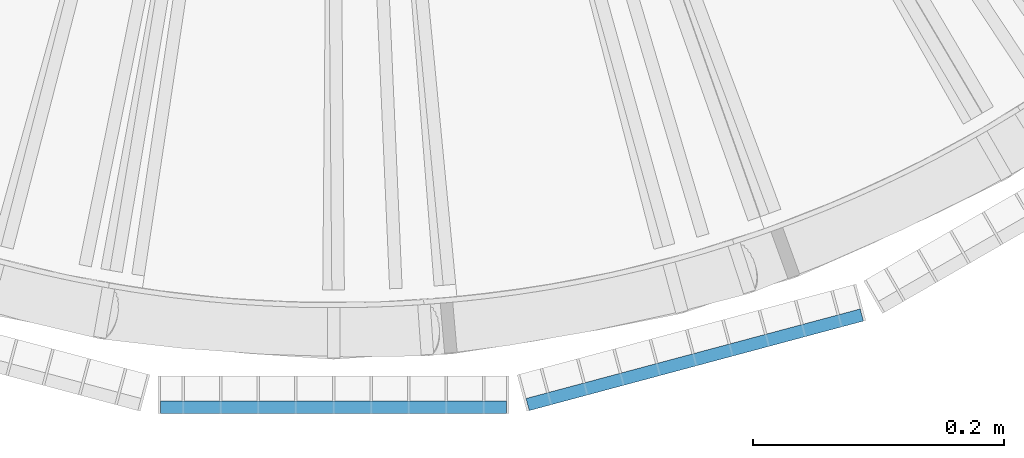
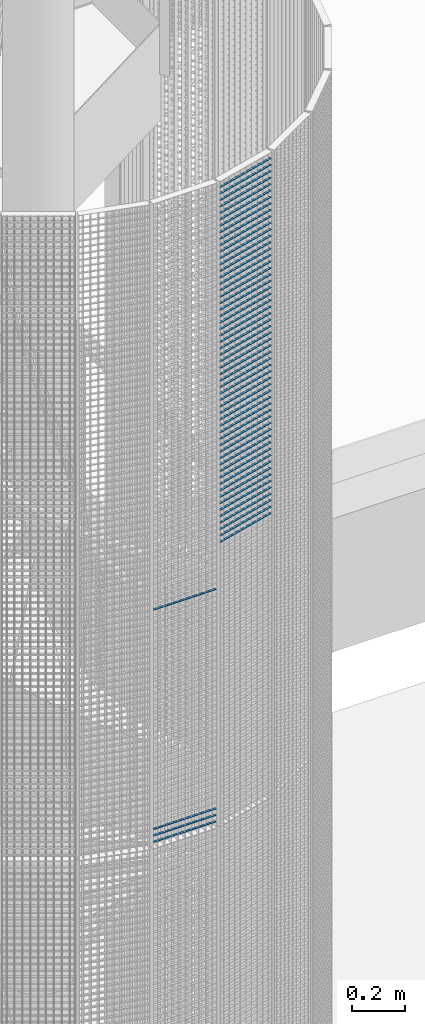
# One storey, part 392 of 1183: 60 beams, 2 elements without a shape of their own.
"""IFC2X3 building model written with IfcOpenShell, lengths in millimetres."""

from ifc_helpers import new_model, si_unit, frame, origin_with_axes, origin_2d_with_axis, place, context, subcontext, project, spatial, rectangle, extrude, material, type_object, element, aggregate, save


model = new_model("IFC2X3")

# Units and contexts
model_context = context("Model", 3, precision=1e-05, world=origin_with_axes())
body_context = subcontext(model_context, "Body", "Model", "MODEL_VIEW")
ifc_project = project(units=[si_unit("LENGTHUNIT", "METRE", prefix="MILLI"), si_unit("AREAUNIT", "SQUARE_METRE"), si_unit("VOLUMEUNIT", "CUBIC_METRE"), si_unit("MASSUNIT", "GRAM", prefix="KILO"), si_unit("TIMEUNIT", "SECOND"), si_unit("PLANEANGLEUNIT", "RADIAN"), si_unit("SOLIDANGLEUNIT", "STERADIAN"), si_unit("THERMODYNAMICTEMPERATUREUNIT", "DEGREE_CELSIUS"), si_unit("LUMINOUSINTENSITYUNIT", "LUMEN")], contexts=[model_context])

# Site, building, storey
site_placement = place(None, origin_with_axes())
site = spatial("IfcSite", under=ifc_project, at=site_placement, Name="Undefined", CompositionType="ELEMENT")
building_placement = place(site_placement, origin_with_axes())
building = spatial("IfcBuilding", under=site, at=building_placement, Name="Undefined", CompositionType="ELEMENT")
storey_placement = place(building_placement, origin_with_axes())
storey = spatial("IfcBuildingStorey", under=building, at=storey_placement, Name="Undefined", CompositionType="ELEMENT", Elevation=0.0)

# Assembly, beams
assembly_1_placement = place(storey_placement, origin_with_axes())
assembly_1 = element("IfcElementAssembly", 1, at=assembly_1_placement, inside=storey, Name="BORDURE", AssemblyPlace="NOTDEFINED", PredefinedType="NOTDEFINED")
ifc_material = material(Name="STEEL/S235JR")
beam_type = type_object("IfcBeamType", Name="PL2*10", PredefinedType="NOTDEFINED")
beam_1_placement = place(assembly_1_placement, frame((21737.9960033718, -1113.47999999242, 15090.0), z_axis=(0.0, -1.0, 0.0), x_axis=(-1.0, 0.0, 0.0)))
beam_1 = element("IfcBeam", 2, at=beam_1_placement, type_object=beam_type, material=ifc_material, Name="ENTRETOISE", context=body_context, shape_type="SweptSolid", body=[
    extrude(rectangle(XDim=2.0, YDim=10.0, at=origin_2d_with_axis()), frame((275.999999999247, 9.09494701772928e-13, 1.53210777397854e-14), z_axis=(-1.0, 0.0, 0.0), x_axis=(0.0, -1.0, 0.0)), (0.0, 0.0, 1.0), 276.0),
])
beam_2_placement = place(assembly_1_placement, frame((21737.9960033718, -1113.47999999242, 15060.0), z_axis=(0.0, -1.0, 0.0), x_axis=(-1.0, 0.0, 0.0)))
beam_2 = element("IfcBeam", 3, at=beam_2_placement, type_object=beam_type, material=ifc_material, Name="ENTRETOISE", context=body_context, shape_type="SweptSolid", body=[
    extrude(rectangle(XDim=2.0, YDim=10.0, at=origin_2d_with_axis()), frame((275.999999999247, 9.09494701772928e-13, 1.53210777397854e-14), z_axis=(-1.0, 0.0, 0.0), x_axis=(0.0, -1.0, 0.0)), (0.0, 0.0, 1.0), 276.0),
])
beam_3_placement = place(assembly_1_placement, frame((21737.9960033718, -1113.47999999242, 16110.0), z_axis=(0.0, -1.0, 0.0), x_axis=(-1.0, 0.0, 0.0)))
beam_3 = element("IfcBeam", 4, at=beam_3_placement, type_object=beam_type, material=ifc_material, Name="ENTRETOISE", context=body_context, shape_type="SweptSolid", body=[
    extrude(rectangle(XDim=2.0, YDim=10.0, at=origin_2d_with_axis()), frame((275.999999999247, 9.09494701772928e-13, 1.53210777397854e-14), z_axis=(-1.0, 0.0, 0.0), x_axis=(0.0, -1.0, 0.0)), (0.0, 0.0, 1.0), 276.0),
])
beam_4_placement = place(assembly_1_placement, frame((21737.9960033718, -1113.47999999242, 15030.0), z_axis=(0.0, -1.0, 0.0), x_axis=(-1.0, 0.0, 0.0)))
beam_4 = element("IfcBeam", 5, at=beam_4_placement, type_object=beam_type, material=ifc_material, Name="ENTRETOISE", context=body_context, shape_type="SweptSolid", body=[
    extrude(rectangle(XDim=2.0, YDim=10.0, at=origin_2d_with_axis()), frame((275.999999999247, 9.09494701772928e-13, 1.53210777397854e-14), z_axis=(-1.0, 0.0, 0.0), x_axis=(0.0, -1.0, 0.0)), (0.0, 0.0, 1.0), 276.0),
])
aggregate(assembly_1, [beam_1, beam_2, beam_3, beam_4])

assembly_2_placement = place(storey_placement, origin_with_axes())
assembly_2 = element("IfcElementAssembly", 6, at=assembly_2_placement, inside=storey, Name="BORDURE", AssemblyPlace="NOTDEFINED", PredefinedType="NOTDEFINED")
beam_5_placement = place(assembly_2_placement, frame((22021.4837339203, -1039.82309522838, 17970.0), z_axis=(0.258819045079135, -0.965925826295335, 0.0), x_axis=(-0.965925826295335, -0.258819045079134, 0.0)))
beam_5 = element("IfcBeam", 7, at=beam_5_placement, type_object=beam_type, material=ifc_material, Name="ENTRETOISE", context=body_context, shape_type="SweptSolid", body=[
    extrude(rectangle(XDim=2.0, YDim=10.0, at=origin_2d_with_axis()), frame((275.999999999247, 9.09494701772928e-13, 1.53210777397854e-14), z_axis=(-1.0, 0.0, 0.0), x_axis=(0.0, -1.0, 0.0)), (0.0, 0.0, 1.0), 276.0),
])
beam_6_placement = place(assembly_2_placement, frame((22021.4837339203, -1039.82309522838, 17940.0), z_axis=(0.258819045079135, -0.965925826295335, 0.0), x_axis=(-0.965925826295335, -0.258819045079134, 0.0)))
beam_6 = element("IfcBeam", 8, at=beam_6_placement, type_object=beam_type, material=ifc_material, Name="ENTRETOISE", context=body_context, shape_type="SweptSolid", body=[
    extrude(rectangle(XDim=2.0, YDim=10.0, at=origin_2d_with_axis()), frame((275.999999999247, 9.09494701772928e-13, 1.53210777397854e-14), z_axis=(-1.0, 0.0, 0.0), x_axis=(0.0, -1.0, 0.0)), (0.0, 0.0, 1.0), 276.0),
])
beam_7_placement = place(assembly_2_placement, frame((22021.4837339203, -1039.82309522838, 17910.0), z_axis=(0.258819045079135, -0.965925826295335, 0.0), x_axis=(-0.965925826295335, -0.258819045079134, 0.0)))
beam_7 = element("IfcBeam", 9, at=beam_7_placement, type_object=beam_type, material=ifc_material, Name="ENTRETOISE", context=body_context, shape_type="SweptSolid", body=[
    extrude(rectangle(XDim=2.0, YDim=10.0, at=origin_2d_with_axis()), frame((275.999999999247, 9.09494701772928e-13, 1.53210777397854e-14), z_axis=(-1.0, 0.0, 0.0), x_axis=(0.0, -1.0, 0.0)), (0.0, 0.0, 1.0), 276.0),
])
beam_8_placement = place(assembly_2_placement, frame((22021.4837339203, -1039.82309522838, 17880.0), z_axis=(0.258819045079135, -0.965925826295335, 0.0), x_axis=(-0.965925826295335, -0.258819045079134, 0.0)))
beam_8 = element("IfcBeam", 10, at=beam_8_placement, type_object=beam_type, material=ifc_material, Name="ENTRETOISE", context=body_context, shape_type="SweptSolid", body=[
    extrude(rectangle(XDim=2.0, YDim=10.0, at=origin_2d_with_axis()), frame((275.999999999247, 9.09494701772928e-13, 1.53210777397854e-14), z_axis=(-1.0, 0.0, 0.0), x_axis=(0.0, -1.0, 0.0)), (0.0, 0.0, 1.0), 276.0),
])
beam_9_placement = place(assembly_2_placement, frame((22021.4837339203, -1039.82309522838, 17850.0), z_axis=(0.258819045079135, -0.965925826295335, 0.0), x_axis=(-0.965925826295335, -0.258819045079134, 0.0)))
beam_9 = element("IfcBeam", 11, at=beam_9_placement, type_object=beam_type, material=ifc_material, Name="ENTRETOISE", context=body_context, shape_type="SweptSolid", body=[
    extrude(rectangle(XDim=2.0, YDim=10.0, at=origin_2d_with_axis()), frame((275.999999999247, 9.09494701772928e-13, 1.53210777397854e-14), z_axis=(-1.0, 0.0, 0.0), x_axis=(0.0, -1.0, 0.0)), (0.0, 0.0, 1.0), 276.0),
])
beam_10_placement = place(assembly_2_placement, frame((22021.4837339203, -1039.82309522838, 17820.0), z_axis=(0.258819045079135, -0.965925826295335, 0.0), x_axis=(-0.965925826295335, -0.258819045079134, 0.0)))
beam_10 = element("IfcBeam", 12, at=beam_10_placement, type_object=beam_type, material=ifc_material, Name="ENTRETOISE", context=body_context, shape_type="SweptSolid", body=[
    extrude(rectangle(XDim=2.0, YDim=10.0, at=origin_2d_with_axis()), frame((275.999999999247, 9.09494701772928e-13, 1.53210777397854e-14), z_axis=(-1.0, 0.0, 0.0), x_axis=(0.0, -1.0, 0.0)), (0.0, 0.0, 1.0), 276.0),
])
beam_11_placement = place(assembly_2_placement, frame((22021.4837339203, -1039.82309522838, 17790.0), z_axis=(0.258819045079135, -0.965925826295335, 0.0), x_axis=(-0.965925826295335, -0.258819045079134, 0.0)))
beam_11 = element("IfcBeam", 13, at=beam_11_placement, type_object=beam_type, material=ifc_material, Name="ENTRETOISE", context=body_context, shape_type="SweptSolid", body=[
    extrude(rectangle(XDim=2.0, YDim=10.0, at=origin_2d_with_axis()), frame((275.999999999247, 9.09494701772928e-13, 1.53210777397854e-14), z_axis=(-1.0, 0.0, 0.0), x_axis=(0.0, -1.0, 0.0)), (0.0, 0.0, 1.0), 276.0),
])
beam_12_placement = place(assembly_2_placement, frame((22021.4837339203, -1039.82309522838, 17760.0), z_axis=(0.258819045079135, -0.965925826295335, 0.0), x_axis=(-0.965925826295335, -0.258819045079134, 0.0)))
beam_12 = element("IfcBeam", 14, at=beam_12_placement, type_object=beam_type, material=ifc_material, Name="ENTRETOISE", context=body_context, shape_type="SweptSolid", body=[
    extrude(rectangle(XDim=2.0, YDim=10.0, at=origin_2d_with_axis()), frame((275.999999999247, 9.09494701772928e-13, 1.53210777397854e-14), z_axis=(-1.0, 0.0, 0.0), x_axis=(0.0, -1.0, 0.0)), (0.0, 0.0, 1.0), 276.0),
])
beam_13_placement = place(assembly_2_placement, frame((22021.4837339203, -1039.82309522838, 17730.0), z_axis=(0.258819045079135, -0.965925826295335, 0.0), x_axis=(-0.965925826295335, -0.258819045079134, 0.0)))
beam_13 = element("IfcBeam", 15, at=beam_13_placement, type_object=beam_type, material=ifc_material, Name="ENTRETOISE", context=body_context, shape_type="SweptSolid", body=[
    extrude(rectangle(XDim=2.0, YDim=10.0, at=origin_2d_with_axis()), frame((275.999999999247, 9.09494701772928e-13, 1.53210777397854e-14), z_axis=(-1.0, 0.0, 0.0), x_axis=(0.0, -1.0, 0.0)), (0.0, 0.0, 1.0), 276.0),
])
beam_14_placement = place(assembly_2_placement, frame((22021.4837339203, -1039.82309522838, 17700.0), z_axis=(0.258819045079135, -0.965925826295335, 0.0), x_axis=(-0.965925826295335, -0.258819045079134, 0.0)))
beam_14 = element("IfcBeam", 16, at=beam_14_placement, type_object=beam_type, material=ifc_material, Name="ENTRETOISE", context=body_context, shape_type="SweptSolid", body=[
    extrude(rectangle(XDim=2.0, YDim=10.0, at=origin_2d_with_axis()), frame((275.999999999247, 9.09494701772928e-13, 1.53210777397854e-14), z_axis=(-1.0, 0.0, 0.0), x_axis=(0.0, -1.0, 0.0)), (0.0, 0.0, 1.0), 276.0),
])
beam_15_placement = place(assembly_2_placement, frame((22021.4837339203, -1039.82309522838, 17670.0), z_axis=(0.258819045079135, -0.965925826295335, 0.0), x_axis=(-0.965925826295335, -0.258819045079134, 0.0)))
beam_15 = element("IfcBeam", 17, at=beam_15_placement, type_object=beam_type, material=ifc_material, Name="ENTRETOISE", context=body_context, shape_type="SweptSolid", body=[
    extrude(rectangle(XDim=2.0, YDim=10.0, at=origin_2d_with_axis()), frame((275.999999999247, 9.09494701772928e-13, 1.53210777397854e-14), z_axis=(-1.0, 0.0, 0.0), x_axis=(0.0, -1.0, 0.0)), (0.0, 0.0, 1.0), 276.0),
])
beam_16_placement = place(assembly_2_placement, frame((22021.4837339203, -1039.82309522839, 17640.0), z_axis=(0.258819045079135, -0.965925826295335, 0.0), x_axis=(-0.965925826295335, -0.258819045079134, 0.0)))
beam_16 = element("IfcBeam", 18, at=beam_16_placement, type_object=beam_type, material=ifc_material, Name="ENTRETOISE", context=body_context, shape_type="SweptSolid", body=[
    extrude(rectangle(XDim=2.0, YDim=10.0, at=origin_2d_with_axis()), frame((275.999999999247, 9.09494701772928e-13, 1.53210777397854e-14), z_axis=(-1.0, 0.0, 0.0), x_axis=(0.0, -1.0, 0.0)), (0.0, 0.0, 1.0), 276.0),
])
beam_17_placement = place(assembly_2_placement, frame((22021.4837339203, -1039.82309522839, 17610.0), z_axis=(0.258819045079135, -0.965925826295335, 0.0), x_axis=(-0.965925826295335, -0.258819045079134, 0.0)))
beam_17 = element("IfcBeam", 19, at=beam_17_placement, type_object=beam_type, material=ifc_material, Name="ENTRETOISE", context=body_context, shape_type="SweptSolid", body=[
    extrude(rectangle(XDim=2.0, YDim=10.0, at=origin_2d_with_axis()), frame((275.999999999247, 9.09494701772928e-13, 1.53210777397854e-14), z_axis=(-1.0, 0.0, 0.0), x_axis=(0.0, -1.0, 0.0)), (0.0, 0.0, 1.0), 276.0),
])
beam_18_placement = place(assembly_2_placement, frame((22021.4837339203, -1039.82309522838, 17580.0), z_axis=(0.258819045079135, -0.965925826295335, 0.0), x_axis=(-0.965925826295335, -0.258819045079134, 0.0)))
beam_18 = element("IfcBeam", 20, at=beam_18_placement, type_object=beam_type, material=ifc_material, Name="ENTRETOISE", context=body_context, shape_type="SweptSolid", body=[
    extrude(rectangle(XDim=2.0, YDim=10.0, at=origin_2d_with_axis()), frame((275.999999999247, 9.09494701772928e-13, 1.53210777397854e-14), z_axis=(-1.0, 0.0, 0.0), x_axis=(0.0, -1.0, 0.0)), (0.0, 0.0, 1.0), 276.0),
])
beam_19_placement = place(assembly_2_placement, frame((22021.4837339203, -1039.82309522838, 17550.0), z_axis=(0.258819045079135, -0.965925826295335, 0.0), x_axis=(-0.965925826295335, -0.258819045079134, 0.0)))
beam_19 = element("IfcBeam", 21, at=beam_19_placement, type_object=beam_type, material=ifc_material, Name="ENTRETOISE", context=body_context, shape_type="SweptSolid", body=[
    extrude(rectangle(XDim=2.0, YDim=10.0, at=origin_2d_with_axis()), frame((275.999999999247, 9.09494701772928e-13, 1.53210777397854e-14), z_axis=(-1.0, 0.0, 0.0), x_axis=(0.0, -1.0, 0.0)), (0.0, 0.0, 1.0), 276.0),
])
beam_20_placement = place(assembly_2_placement, frame((22021.4837339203, -1039.82309522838, 17520.0), z_axis=(0.258819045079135, -0.965925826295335, 0.0), x_axis=(-0.965925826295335, -0.258819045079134, 0.0)))
beam_20 = element("IfcBeam", 22, at=beam_20_placement, type_object=beam_type, material=ifc_material, Name="ENTRETOISE", context=body_context, shape_type="SweptSolid", body=[
    extrude(rectangle(XDim=2.0, YDim=10.0, at=origin_2d_with_axis()), frame((275.999999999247, 9.09494701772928e-13, 1.53210777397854e-14), z_axis=(-1.0, 0.0, 0.0), x_axis=(0.0, -1.0, 0.0)), (0.0, 0.0, 1.0), 276.0),
])
beam_21_placement = place(assembly_2_placement, frame((22021.4837339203, -1039.82309522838, 17490.0), z_axis=(0.258819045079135, -0.965925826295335, 0.0), x_axis=(-0.965925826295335, -0.258819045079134, 0.0)))
beam_21 = element("IfcBeam", 23, at=beam_21_placement, type_object=beam_type, material=ifc_material, Name="ENTRETOISE", context=body_context, shape_type="SweptSolid", body=[
    extrude(rectangle(XDim=2.0, YDim=10.0, at=origin_2d_with_axis()), frame((275.999999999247, 9.09494701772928e-13, 1.53210777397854e-14), z_axis=(-1.0, 0.0, 0.0), x_axis=(0.0, -1.0, 0.0)), (0.0, 0.0, 1.0), 276.0),
])
beam_22_placement = place(assembly_2_placement, frame((22021.4837339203, -1039.82309522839, 17460.0), z_axis=(0.258819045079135, -0.965925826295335, 0.0), x_axis=(-0.965925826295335, -0.258819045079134, 0.0)))
beam_22 = element("IfcBeam", 24, at=beam_22_placement, type_object=beam_type, material=ifc_material, Name="ENTRETOISE", context=body_context, shape_type="SweptSolid", body=[
    extrude(rectangle(XDim=2.0, YDim=10.0, at=origin_2d_with_axis()), frame((275.999999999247, 9.09494701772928e-13, 1.53210777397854e-14), z_axis=(-1.0, 0.0, 0.0), x_axis=(0.0, -1.0, 0.0)), (0.0, 0.0, 1.0), 276.0),
])
beam_23_placement = place(assembly_2_placement, frame((22021.4837339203, -1039.82309522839, 17430.0), z_axis=(0.258819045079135, -0.965925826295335, 0.0), x_axis=(-0.965925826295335, -0.258819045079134, 0.0)))
beam_23 = element("IfcBeam", 25, at=beam_23_placement, type_object=beam_type, material=ifc_material, Name="ENTRETOISE", context=body_context, shape_type="SweptSolid", body=[
    extrude(rectangle(XDim=2.0, YDim=10.0, at=origin_2d_with_axis()), frame((275.999999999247, 9.09494701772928e-13, 1.53210777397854e-14), z_axis=(-1.0, 0.0, 0.0), x_axis=(0.0, -1.0, 0.0)), (0.0, 0.0, 1.0), 276.0),
])
beam_24_placement = place(assembly_2_placement, frame((22021.4837339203, -1039.82309522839, 17400.0), z_axis=(0.258819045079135, -0.965925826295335, 0.0), x_axis=(-0.965925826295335, -0.258819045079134, 0.0)))
beam_24 = element("IfcBeam", 26, at=beam_24_placement, type_object=beam_type, material=ifc_material, Name="ENTRETOISE", context=body_context, shape_type="SweptSolid", body=[
    extrude(rectangle(XDim=2.0, YDim=10.0, at=origin_2d_with_axis()), frame((275.999999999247, 9.09494701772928e-13, 1.53210777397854e-14), z_axis=(-1.0, 0.0, 0.0), x_axis=(0.0, -1.0, 0.0)), (0.0, 0.0, 1.0), 276.0),
])
beam_25_placement = place(assembly_2_placement, frame((22021.4837339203, -1039.82309522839, 17370.0), z_axis=(0.258819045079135, -0.965925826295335, 0.0), x_axis=(-0.965925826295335, -0.258819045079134, 0.0)))
beam_25 = element("IfcBeam", 27, at=beam_25_placement, type_object=beam_type, material=ifc_material, Name="ENTRETOISE", context=body_context, shape_type="SweptSolid", body=[
    extrude(rectangle(XDim=2.0, YDim=10.0, at=origin_2d_with_axis()), frame((275.999999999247, 9.09494701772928e-13, 1.53210777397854e-14), z_axis=(-1.0, 0.0, 0.0), x_axis=(0.0, -1.0, 0.0)), (0.0, 0.0, 1.0), 276.0),
])
beam_26_placement = place(assembly_2_placement, frame((22021.4837339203, -1039.82309522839, 17340.0), z_axis=(0.258819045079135, -0.965925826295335, 0.0), x_axis=(-0.965925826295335, -0.258819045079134, 0.0)))
beam_26 = element("IfcBeam", 28, at=beam_26_placement, type_object=beam_type, material=ifc_material, Name="ENTRETOISE", context=body_context, shape_type="SweptSolid", body=[
    extrude(rectangle(XDim=2.0, YDim=10.0, at=origin_2d_with_axis()), frame((275.999999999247, 9.09494701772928e-13, 1.53210777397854e-14), z_axis=(-1.0, 0.0, 0.0), x_axis=(0.0, -1.0, 0.0)), (0.0, 0.0, 1.0), 276.0),
])
beam_27_placement = place(assembly_2_placement, frame((22021.4837339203, -1039.82309522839, 17310.0), z_axis=(0.258819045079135, -0.965925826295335, 0.0), x_axis=(-0.965925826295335, -0.258819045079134, 0.0)))
beam_27 = element("IfcBeam", 29, at=beam_27_placement, type_object=beam_type, material=ifc_material, Name="ENTRETOISE", context=body_context, shape_type="SweptSolid", body=[
    extrude(rectangle(XDim=2.0, YDim=10.0, at=origin_2d_with_axis()), frame((275.999999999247, 9.09494701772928e-13, 1.53210777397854e-14), z_axis=(-1.0, 0.0, 0.0), x_axis=(0.0, -1.0, 0.0)), (0.0, 0.0, 1.0), 276.0),
])
beam_28_placement = place(assembly_2_placement, frame((22021.4837339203, -1039.82309522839, 17280.0), z_axis=(0.258819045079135, -0.965925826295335, 0.0), x_axis=(-0.965925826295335, -0.258819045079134, 0.0)))
beam_28 = element("IfcBeam", 30, at=beam_28_placement, type_object=beam_type, material=ifc_material, Name="ENTRETOISE", context=body_context, shape_type="SweptSolid", body=[
    extrude(rectangle(XDim=2.0, YDim=10.0, at=origin_2d_with_axis()), frame((275.999999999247, 9.09494701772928e-13, 1.53210777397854e-14), z_axis=(-1.0, 0.0, 0.0), x_axis=(0.0, -1.0, 0.0)), (0.0, 0.0, 1.0), 276.0),
])
beam_29_placement = place(assembly_2_placement, frame((22021.4837339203, -1039.82309522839, 17250.0), z_axis=(0.258819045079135, -0.965925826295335, 0.0), x_axis=(-0.965925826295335, -0.258819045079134, 0.0)))
beam_29 = element("IfcBeam", 31, at=beam_29_placement, type_object=beam_type, material=ifc_material, Name="ENTRETOISE", context=body_context, shape_type="SweptSolid", body=[
    extrude(rectangle(XDim=2.0, YDim=10.0, at=origin_2d_with_axis()), frame((275.999999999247, 9.09494701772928e-13, 1.53210777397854e-14), z_axis=(-1.0, 0.0, 0.0), x_axis=(0.0, -1.0, 0.0)), (0.0, 0.0, 1.0), 276.0),
])
beam_30_placement = place(assembly_2_placement, frame((22021.4837339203, -1039.82309522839, 17220.0), z_axis=(0.258819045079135, -0.965925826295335, 0.0), x_axis=(-0.965925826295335, -0.258819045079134, 0.0)))
beam_30 = element("IfcBeam", 32, at=beam_30_placement, type_object=beam_type, material=ifc_material, Name="ENTRETOISE", context=body_context, shape_type="SweptSolid", body=[
    extrude(rectangle(XDim=2.0, YDim=10.0, at=origin_2d_with_axis()), frame((275.999999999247, 9.09494701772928e-13, 1.53210777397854e-14), z_axis=(-1.0, 0.0, 0.0), x_axis=(0.0, -1.0, 0.0)), (0.0, 0.0, 1.0), 276.0),
])
beam_31_placement = place(assembly_2_placement, frame((22021.4837339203, -1039.82309522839, 17190.0), z_axis=(0.258819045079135, -0.965925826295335, 0.0), x_axis=(-0.965925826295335, -0.258819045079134, 0.0)))
beam_31 = element("IfcBeam", 33, at=beam_31_placement, type_object=beam_type, material=ifc_material, Name="ENTRETOISE", context=body_context, shape_type="SweptSolid", body=[
    extrude(rectangle(XDim=2.0, YDim=10.0, at=origin_2d_with_axis()), frame((275.999999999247, 9.09494701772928e-13, 1.53210777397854e-14), z_axis=(-1.0, 0.0, 0.0), x_axis=(0.0, -1.0, 0.0)), (0.0, 0.0, 1.0), 276.0),
])
beam_32_placement = place(assembly_2_placement, frame((22021.4837339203, -1039.82309522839, 17160.0), z_axis=(0.258819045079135, -0.965925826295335, 0.0), x_axis=(-0.965925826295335, -0.258819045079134, 0.0)))
beam_32 = element("IfcBeam", 34, at=beam_32_placement, type_object=beam_type, material=ifc_material, Name="ENTRETOISE", context=body_context, shape_type="SweptSolid", body=[
    extrude(rectangle(XDim=2.0, YDim=10.0, at=origin_2d_with_axis()), frame((275.999999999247, 9.09494701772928e-13, 1.53210777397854e-14), z_axis=(-1.0, 0.0, 0.0), x_axis=(0.0, -1.0, 0.0)), (0.0, 0.0, 1.0), 276.0),
])
beam_33_placement = place(assembly_2_placement, frame((22021.4837339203, -1039.82309522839, 17130.0), z_axis=(0.258819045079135, -0.965925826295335, 0.0), x_axis=(-0.965925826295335, -0.258819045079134, 0.0)))
beam_33 = element("IfcBeam", 35, at=beam_33_placement, type_object=beam_type, material=ifc_material, Name="ENTRETOISE", context=body_context, shape_type="SweptSolid", body=[
    extrude(rectangle(XDim=2.0, YDim=10.0, at=origin_2d_with_axis()), frame((275.999999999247, 9.09494701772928e-13, 1.53210777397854e-14), z_axis=(-1.0, 0.0, 0.0), x_axis=(0.0, -1.0, 0.0)), (0.0, 0.0, 1.0), 276.0),
])
beam_34_placement = place(assembly_2_placement, frame((22021.4837339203, -1039.82309522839, 17100.0), z_axis=(0.258819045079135, -0.965925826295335, 0.0), x_axis=(-0.965925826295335, -0.258819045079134, 0.0)))
beam_34 = element("IfcBeam", 36, at=beam_34_placement, type_object=beam_type, material=ifc_material, Name="ENTRETOISE", context=body_context, shape_type="SweptSolid", body=[
    extrude(rectangle(XDim=2.0, YDim=10.0, at=origin_2d_with_axis()), frame((275.999999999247, 9.09494701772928e-13, 1.53210777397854e-14), z_axis=(-1.0, 0.0, 0.0), x_axis=(0.0, -1.0, 0.0)), (0.0, 0.0, 1.0), 276.0),
])
beam_35_placement = place(assembly_2_placement, frame((22021.4837339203, -1039.82309522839, 17070.0), z_axis=(0.258819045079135, -0.965925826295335, 0.0), x_axis=(-0.965925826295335, -0.258819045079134, 0.0)))
beam_35 = element("IfcBeam", 37, at=beam_35_placement, type_object=beam_type, material=ifc_material, Name="ENTRETOISE", context=body_context, shape_type="SweptSolid", body=[
    extrude(rectangle(XDim=2.0, YDim=10.0, at=origin_2d_with_axis()), frame((275.999999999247, 9.09494701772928e-13, 1.53210777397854e-14), z_axis=(-1.0, 0.0, 0.0), x_axis=(0.0, -1.0, 0.0)), (0.0, 0.0, 1.0), 276.0),
])
beam_36_placement = place(assembly_2_placement, frame((22021.4837339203, -1039.82309522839, 17040.0), z_axis=(0.258819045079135, -0.965925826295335, 0.0), x_axis=(-0.965925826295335, -0.258819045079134, 0.0)))
beam_36 = element("IfcBeam", 38, at=beam_36_placement, type_object=beam_type, material=ifc_material, Name="ENTRETOISE", context=body_context, shape_type="SweptSolid", body=[
    extrude(rectangle(XDim=2.0, YDim=10.0, at=origin_2d_with_axis()), frame((275.999999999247, 9.09494701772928e-13, 1.53210777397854e-14), z_axis=(-1.0, 0.0, 0.0), x_axis=(0.0, -1.0, 0.0)), (0.0, 0.0, 1.0), 276.0),
])
beam_37_placement = place(assembly_2_placement, frame((22021.4837339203, -1039.82309522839, 17010.0), z_axis=(0.258819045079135, -0.965925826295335, 0.0), x_axis=(-0.965925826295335, -0.258819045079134, 0.0)))
beam_37 = element("IfcBeam", 39, at=beam_37_placement, type_object=beam_type, material=ifc_material, Name="ENTRETOISE", context=body_context, shape_type="SweptSolid", body=[
    extrude(rectangle(XDim=2.0, YDim=10.0, at=origin_2d_with_axis()), frame((275.999999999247, 9.09494701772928e-13, 1.53210777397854e-14), z_axis=(-1.0, 0.0, 0.0), x_axis=(0.0, -1.0, 0.0)), (0.0, 0.0, 1.0), 276.0),
])
beam_38_placement = place(assembly_2_placement, frame((22021.4837339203, -1039.82309522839, 16980.0), z_axis=(0.258819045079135, -0.965925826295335, 0.0), x_axis=(-0.965925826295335, -0.258819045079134, 0.0)))
beam_38 = element("IfcBeam", 40, at=beam_38_placement, type_object=beam_type, material=ifc_material, Name="ENTRETOISE", context=body_context, shape_type="SweptSolid", body=[
    extrude(rectangle(XDim=2.0, YDim=10.0, at=origin_2d_with_axis()), frame((275.999999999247, 9.09494701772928e-13, 1.53210777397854e-14), z_axis=(-1.0, 0.0, 0.0), x_axis=(0.0, -1.0, 0.0)), (0.0, 0.0, 1.0), 276.0),
])
beam_39_placement = place(assembly_2_placement, frame((22021.4837339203, -1039.82309522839, 16950.0), z_axis=(0.258819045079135, -0.965925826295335, 0.0), x_axis=(-0.965925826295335, -0.258819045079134, 0.0)))
beam_39 = element("IfcBeam", 41, at=beam_39_placement, type_object=beam_type, material=ifc_material, Name="ENTRETOISE", context=body_context, shape_type="SweptSolid", body=[
    extrude(rectangle(XDim=2.0, YDim=10.0, at=origin_2d_with_axis()), frame((275.999999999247, 9.09494701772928e-13, 1.53210777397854e-14), z_axis=(-1.0, 0.0, 0.0), x_axis=(0.0, -1.0, 0.0)), (0.0, 0.0, 1.0), 276.0),
])
beam_40_placement = place(assembly_2_placement, frame((22021.4837339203, -1039.82309522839, 16920.0), z_axis=(0.258819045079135, -0.965925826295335, 0.0), x_axis=(-0.965925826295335, -0.258819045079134, 0.0)))
beam_40 = element("IfcBeam", 42, at=beam_40_placement, type_object=beam_type, material=ifc_material, Name="ENTRETOISE", context=body_context, shape_type="SweptSolid", body=[
    extrude(rectangle(XDim=2.0, YDim=10.0, at=origin_2d_with_axis()), frame((275.999999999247, 9.09494701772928e-13, 1.53210777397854e-14), z_axis=(-1.0, 0.0, 0.0), x_axis=(0.0, -1.0, 0.0)), (0.0, 0.0, 1.0), 276.0),
])
beam_41_placement = place(assembly_2_placement, frame((22021.4837339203, -1039.82309522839, 16890.0), z_axis=(0.258819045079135, -0.965925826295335, 0.0), x_axis=(-0.965925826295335, -0.258819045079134, 0.0)))
beam_41 = element("IfcBeam", 43, at=beam_41_placement, type_object=beam_type, material=ifc_material, Name="ENTRETOISE", context=body_context, shape_type="SweptSolid", body=[
    extrude(rectangle(XDim=2.0, YDim=10.0, at=origin_2d_with_axis()), frame((275.999999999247, 9.09494701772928e-13, 1.53210777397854e-14), z_axis=(-1.0, 0.0, 0.0), x_axis=(0.0, -1.0, 0.0)), (0.0, 0.0, 1.0), 276.0),
])
beam_42_placement = place(assembly_2_placement, frame((22021.4837339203, -1039.82309522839, 16860.0), z_axis=(0.258819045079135, -0.965925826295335, 0.0), x_axis=(-0.965925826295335, -0.258819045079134, 0.0)))
beam_42 = element("IfcBeam", 44, at=beam_42_placement, type_object=beam_type, material=ifc_material, Name="ENTRETOISE", context=body_context, shape_type="SweptSolid", body=[
    extrude(rectangle(XDim=2.0, YDim=10.0, at=origin_2d_with_axis()), frame((275.999999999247, 9.09494701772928e-13, 1.53210777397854e-14), z_axis=(-1.0, 0.0, 0.0), x_axis=(0.0, -1.0, 0.0)), (0.0, 0.0, 1.0), 276.0),
])
beam_43_placement = place(assembly_2_placement, frame((22021.4837339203, -1039.82309522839, 16830.0), z_axis=(0.258819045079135, -0.965925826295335, 0.0), x_axis=(-0.965925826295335, -0.258819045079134, 0.0)))
beam_43 = element("IfcBeam", 45, at=beam_43_placement, type_object=beam_type, material=ifc_material, Name="ENTRETOISE", context=body_context, shape_type="SweptSolid", body=[
    extrude(rectangle(XDim=2.0, YDim=10.0, at=origin_2d_with_axis()), frame((275.999999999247, 9.09494701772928e-13, 1.53210777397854e-14), z_axis=(-1.0, 0.0, 0.0), x_axis=(0.0, -1.0, 0.0)), (0.0, 0.0, 1.0), 276.0),
])
beam_44_placement = place(assembly_2_placement, frame((22021.4837339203, -1039.82309522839, 16800.0), z_axis=(0.258819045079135, -0.965925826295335, 0.0), x_axis=(-0.965925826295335, -0.258819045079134, 0.0)))
beam_44 = element("IfcBeam", 46, at=beam_44_placement, type_object=beam_type, material=ifc_material, Name="ENTRETOISE", context=body_context, shape_type="SweptSolid", body=[
    extrude(rectangle(XDim=2.0, YDim=10.0, at=origin_2d_with_axis()), frame((275.999999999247, 9.09494701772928e-13, 1.53210777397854e-14), z_axis=(-1.0, 0.0, 0.0), x_axis=(0.0, -1.0, 0.0)), (0.0, 0.0, 1.0), 276.0),
])
beam_45_placement = place(assembly_2_placement, frame((22021.4837339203, -1039.82309522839, 16770.0), z_axis=(0.258819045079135, -0.965925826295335, 0.0), x_axis=(-0.965925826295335, -0.258819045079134, 0.0)))
beam_45 = element("IfcBeam", 47, at=beam_45_placement, type_object=beam_type, material=ifc_material, Name="ENTRETOISE", context=body_context, shape_type="SweptSolid", body=[
    extrude(rectangle(XDim=2.0, YDim=10.0, at=origin_2d_with_axis()), frame((275.999999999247, 9.09494701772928e-13, 1.53210777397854e-14), z_axis=(-1.0, 0.0, 0.0), x_axis=(0.0, -1.0, 0.0)), (0.0, 0.0, 1.0), 276.0),
])
beam_46_placement = place(assembly_2_placement, frame((22021.4837339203, -1039.82309522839, 16740.0), z_axis=(0.258819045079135, -0.965925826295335, 0.0), x_axis=(-0.965925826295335, -0.258819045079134, 0.0)))
beam_46 = element("IfcBeam", 48, at=beam_46_placement, type_object=beam_type, material=ifc_material, Name="ENTRETOISE", context=body_context, shape_type="SweptSolid", body=[
    extrude(rectangle(XDim=2.0, YDim=10.0, at=origin_2d_with_axis()), frame((275.999999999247, 9.09494701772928e-13, 1.53210777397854e-14), z_axis=(-1.0, 0.0, 0.0), x_axis=(0.0, -1.0, 0.0)), (0.0, 0.0, 1.0), 276.0),
])
beam_47_placement = place(assembly_2_placement, frame((22021.4837339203, -1039.82309522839, 16710.0), z_axis=(0.258819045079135, -0.965925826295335, 0.0), x_axis=(-0.965925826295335, -0.258819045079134, 0.0)))
beam_47 = element("IfcBeam", 49, at=beam_47_placement, type_object=beam_type, material=ifc_material, Name="ENTRETOISE", context=body_context, shape_type="SweptSolid", body=[
    extrude(rectangle(XDim=2.0, YDim=10.0, at=origin_2d_with_axis()), frame((275.999999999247, 9.09494701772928e-13, 1.53210777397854e-14), z_axis=(-1.0, 0.0, 0.0), x_axis=(0.0, -1.0, 0.0)), (0.0, 0.0, 1.0), 276.0),
])
beam_48_placement = place(assembly_2_placement, frame((22021.4837339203, -1039.82309522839, 16680.0), z_axis=(0.258819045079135, -0.965925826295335, 0.0), x_axis=(-0.965925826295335, -0.258819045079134, 0.0)))
beam_48 = element("IfcBeam", 50, at=beam_48_placement, type_object=beam_type, material=ifc_material, Name="ENTRETOISE", context=body_context, shape_type="SweptSolid", body=[
    extrude(rectangle(XDim=2.0, YDim=10.0, at=origin_2d_with_axis()), frame((275.999999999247, 9.09494701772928e-13, 1.53210777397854e-14), z_axis=(-1.0, 0.0, 0.0), x_axis=(0.0, -1.0, 0.0)), (0.0, 0.0, 1.0), 276.0),
])
beam_49_placement = place(assembly_2_placement, frame((22021.4837339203, -1039.82309522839, 16650.0), z_axis=(0.258819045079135, -0.965925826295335, 0.0), x_axis=(-0.965925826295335, -0.258819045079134, 0.0)))
beam_49 = element("IfcBeam", 51, at=beam_49_placement, type_object=beam_type, material=ifc_material, Name="ENTRETOISE", context=body_context, shape_type="SweptSolid", body=[
    extrude(rectangle(XDim=2.0, YDim=10.0, at=origin_2d_with_axis()), frame((275.999999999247, 9.09494701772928e-13, 1.53210777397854e-14), z_axis=(-1.0, 0.0, 0.0), x_axis=(0.0, -1.0, 0.0)), (0.0, 0.0, 1.0), 276.0),
])
beam_50_placement = place(assembly_2_placement, frame((22021.4837339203, -1039.82309522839, 16620.0), z_axis=(0.258819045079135, -0.965925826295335, 0.0), x_axis=(-0.965925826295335, -0.258819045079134, 0.0)))
beam_50 = element("IfcBeam", 52, at=beam_50_placement, type_object=beam_type, material=ifc_material, Name="ENTRETOISE", context=body_context, shape_type="SweptSolid", body=[
    extrude(rectangle(XDim=2.0, YDim=10.0, at=origin_2d_with_axis()), frame((275.999999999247, 9.09494701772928e-13, 1.53210777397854e-14), z_axis=(-1.0, 0.0, 0.0), x_axis=(0.0, -1.0, 0.0)), (0.0, 0.0, 1.0), 276.0),
])
beam_51_placement = place(assembly_2_placement, frame((22021.4837339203, -1039.82309522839, 16590.0), z_axis=(0.258819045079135, -0.965925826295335, 0.0), x_axis=(-0.965925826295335, -0.258819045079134, 0.0)))
beam_51 = element("IfcBeam", 53, at=beam_51_placement, type_object=beam_type, material=ifc_material, Name="ENTRETOISE", context=body_context, shape_type="SweptSolid", body=[
    extrude(rectangle(XDim=2.0, YDim=10.0, at=origin_2d_with_axis()), frame((275.999999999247, 9.09494701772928e-13, 1.53210777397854e-14), z_axis=(-1.0, 0.0, 0.0), x_axis=(0.0, -1.0, 0.0)), (0.0, 0.0, 1.0), 276.0),
])
beam_52_placement = place(assembly_2_placement, frame((22021.4837339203, -1039.82309522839, 16560.0), z_axis=(0.258819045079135, -0.965925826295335, 0.0), x_axis=(-0.965925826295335, -0.258819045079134, 0.0)))
beam_52 = element("IfcBeam", 54, at=beam_52_placement, type_object=beam_type, material=ifc_material, Name="ENTRETOISE", context=body_context, shape_type="SweptSolid", body=[
    extrude(rectangle(XDim=2.0, YDim=10.0, at=origin_2d_with_axis()), frame((275.999999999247, 9.09494701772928e-13, 1.53210777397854e-14), z_axis=(-1.0, 0.0, 0.0), x_axis=(0.0, -1.0, 0.0)), (0.0, 0.0, 1.0), 276.0),
])
beam_53_placement = place(assembly_2_placement, frame((22021.4837339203, -1039.82309522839, 16530.0), z_axis=(0.258819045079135, -0.965925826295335, 0.0), x_axis=(-0.965925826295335, -0.258819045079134, 0.0)))
beam_53 = element("IfcBeam", 55, at=beam_53_placement, type_object=beam_type, material=ifc_material, Name="ENTRETOISE", context=body_context, shape_type="SweptSolid", body=[
    extrude(rectangle(XDim=2.0, YDim=10.0, at=origin_2d_with_axis()), frame((275.999999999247, 9.09494701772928e-13, 1.53210777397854e-14), z_axis=(-1.0, 0.0, 0.0), x_axis=(0.0, -1.0, 0.0)), (0.0, 0.0, 1.0), 276.0),
])
beam_54_placement = place(assembly_2_placement, frame((22021.4837339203, -1039.82309522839, 16500.0), z_axis=(0.258819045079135, -0.965925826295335, 0.0), x_axis=(-0.965925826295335, -0.258819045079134, 0.0)))
beam_54 = element("IfcBeam", 56, at=beam_54_placement, type_object=beam_type, material=ifc_material, Name="ENTRETOISE", context=body_context, shape_type="SweptSolid", body=[
    extrude(rectangle(XDim=2.0, YDim=10.0, at=origin_2d_with_axis()), frame((275.999999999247, 9.09494701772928e-13, 1.53210777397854e-14), z_axis=(-1.0, 0.0, 0.0), x_axis=(0.0, -1.0, 0.0)), (0.0, 0.0, 1.0), 276.0),
])
beam_55_placement = place(assembly_2_placement, frame((22021.4837339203, -1039.82309522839, 16470.0), z_axis=(0.258819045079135, -0.965925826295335, 0.0), x_axis=(-0.965925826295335, -0.258819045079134, 0.0)))
beam_55 = element("IfcBeam", 57, at=beam_55_placement, type_object=beam_type, material=ifc_material, Name="ENTRETOISE", context=body_context, shape_type="SweptSolid", body=[
    extrude(rectangle(XDim=2.0, YDim=10.0, at=origin_2d_with_axis()), frame((275.999999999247, 9.09494701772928e-13, 1.53210777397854e-14), z_axis=(-1.0, 0.0, 0.0), x_axis=(0.0, -1.0, 0.0)), (0.0, 0.0, 1.0), 276.0),
])
beam_56_placement = place(assembly_2_placement, frame((22021.4837339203, -1039.82309522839, 16440.0), z_axis=(0.258819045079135, -0.965925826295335, 0.0), x_axis=(-0.965925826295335, -0.258819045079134, 0.0)))
beam_56 = element("IfcBeam", 58, at=beam_56_placement, type_object=beam_type, material=ifc_material, Name="ENTRETOISE", context=body_context, shape_type="SweptSolid", body=[
    extrude(rectangle(XDim=2.0, YDim=10.0, at=origin_2d_with_axis()), frame((275.999999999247, 9.09494701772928e-13, 1.53210777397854e-14), z_axis=(-1.0, 0.0, 0.0), x_axis=(0.0, -1.0, 0.0)), (0.0, 0.0, 1.0), 276.0),
])
beam_57_placement = place(assembly_2_placement, frame((22021.4837339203, -1039.82309522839, 16410.0), z_axis=(0.258819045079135, -0.965925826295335, 0.0), x_axis=(-0.965925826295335, -0.258819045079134, 0.0)))
beam_57 = element("IfcBeam", 59, at=beam_57_placement, type_object=beam_type, material=ifc_material, Name="ENTRETOISE", context=body_context, shape_type="SweptSolid", body=[
    extrude(rectangle(XDim=2.0, YDim=10.0, at=origin_2d_with_axis()), frame((275.999999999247, 9.09494701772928e-13, 1.53210777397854e-14), z_axis=(-1.0, 0.0, 0.0), x_axis=(0.0, -1.0, 0.0)), (0.0, 0.0, 1.0), 276.0),
])
beam_58_placement = place(assembly_2_placement, frame((22021.4837339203, -1039.82309522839, 16380.0), z_axis=(0.258819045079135, -0.965925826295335, 0.0), x_axis=(-0.965925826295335, -0.258819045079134, 0.0)))
beam_58 = element("IfcBeam", 60, at=beam_58_placement, type_object=beam_type, material=ifc_material, Name="ENTRETOISE", context=body_context, shape_type="SweptSolid", body=[
    extrude(rectangle(XDim=2.0, YDim=10.0, at=origin_2d_with_axis()), frame((275.999999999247, 9.09494701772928e-13, 1.53210777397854e-14), z_axis=(-1.0, 0.0, 0.0), x_axis=(0.0, -1.0, 0.0)), (0.0, 0.0, 1.0), 276.0),
])
beam_59_placement = place(assembly_2_placement, frame((22021.4837339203, -1039.82309522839, 16350.0), z_axis=(0.258819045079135, -0.965925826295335, 0.0), x_axis=(-0.965925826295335, -0.258819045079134, 0.0)))
beam_59 = element("IfcBeam", 61, at=beam_59_placement, type_object=beam_type, material=ifc_material, Name="ENTRETOISE", context=body_context, shape_type="SweptSolid", body=[
    extrude(rectangle(XDim=2.0, YDim=10.0, at=origin_2d_with_axis()), frame((275.999999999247, 9.09494701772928e-13, 1.53210777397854e-14), z_axis=(-1.0, 0.0, 0.0), x_axis=(0.0, -1.0, 0.0)), (0.0, 0.0, 1.0), 276.0),
])
beam_60_placement = place(assembly_2_placement, frame((22021.4837339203, -1039.82309522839, 16320.0), z_axis=(0.258819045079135, -0.965925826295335, 0.0), x_axis=(-0.965925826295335, -0.258819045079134, 0.0)))
beam_60 = element("IfcBeam", 62, at=beam_60_placement, type_object=beam_type, material=ifc_material, Name="ENTRETOISE", context=body_context, shape_type="SweptSolid", body=[
    extrude(rectangle(XDim=2.0, YDim=10.0, at=origin_2d_with_axis()), frame((275.999999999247, 9.09494701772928e-13, 1.53210777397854e-14), z_axis=(-1.0, 0.0, 0.0), x_axis=(0.0, -1.0, 0.0)), (0.0, 0.0, 1.0), 276.0),
])
aggregate(assembly_2, [beam_5, beam_6, beam_7, beam_8, beam_9, beam_10, beam_11, beam_12, beam_13, beam_14, beam_15, beam_16, beam_17, beam_18, beam_19, beam_20, beam_21, beam_22, beam_23, beam_24, beam_25, beam_26, beam_27, beam_28, beam_29, beam_30, beam_31, beam_32, beam_33, beam_34, beam_35, beam_36, beam_37, beam_38, beam_39, beam_40, beam_41, beam_42, beam_43, beam_44, beam_45, beam_46, beam_47, beam_48, beam_49, beam_50, beam_51, beam_52, beam_53, beam_54, beam_55, beam_56, beam_57, beam_58, beam_59, beam_60])

save(model, "model.ifc")
